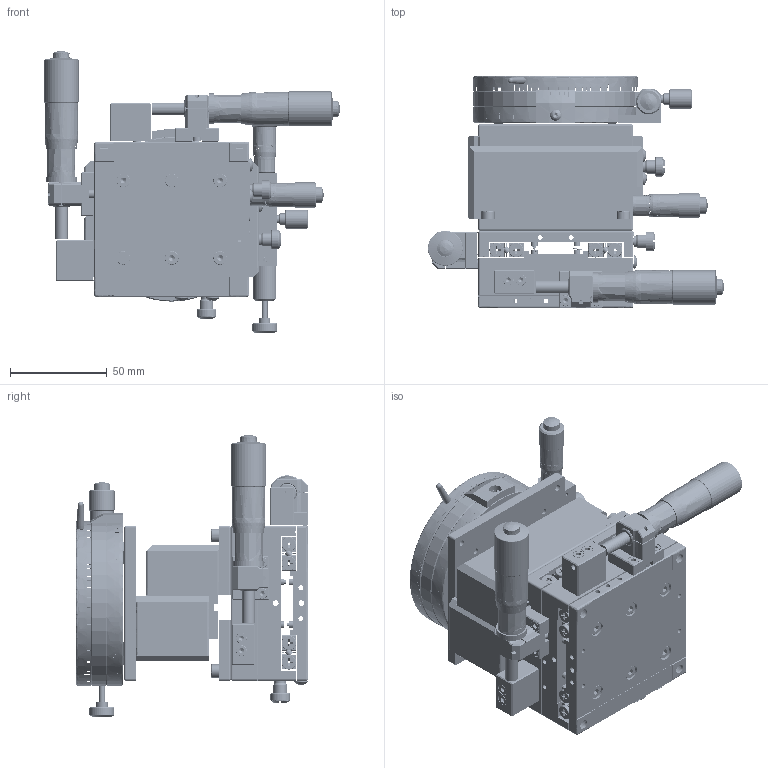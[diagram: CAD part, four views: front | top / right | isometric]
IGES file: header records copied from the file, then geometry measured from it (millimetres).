
Start section: SolidWorks IGES file using analytic representation for surfaces
Bounding box: 152.89 x 120 x 145.69 mm (x, y, z)
Surface area: 165717 mm2 (no closed solid volume)
Topology: 0 solids, 0 shells, 2407 faces, 48354 edges, 48294 vertices
Faces by surface type: bspline 1466, revolution 941
